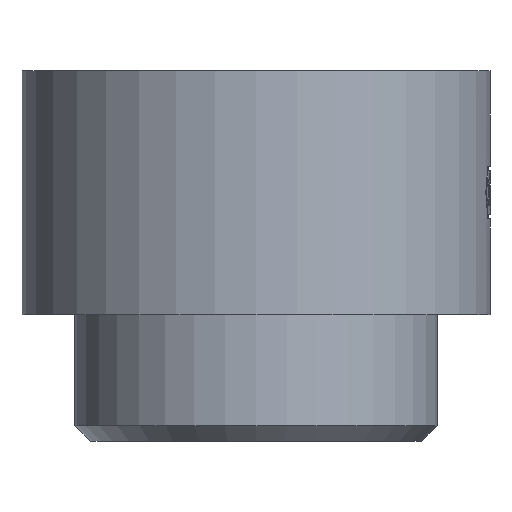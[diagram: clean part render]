
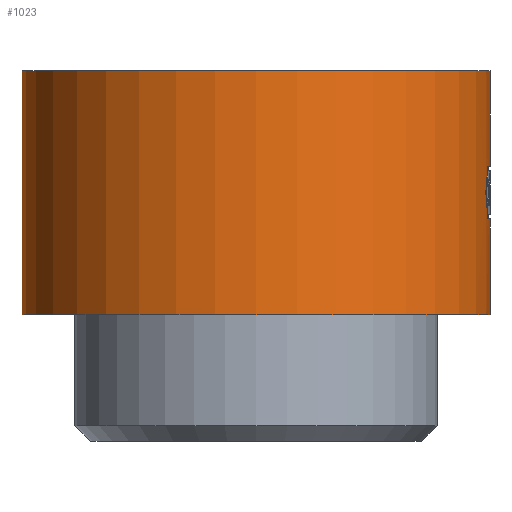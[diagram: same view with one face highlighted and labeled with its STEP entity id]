
A CAD part, front view. The second image highlights one B-rep face of the part: STEP entity #1023.
In plain terms, the highlighted cylindrical face has radius 12 mm (diameter 24 mm), a partial arc.
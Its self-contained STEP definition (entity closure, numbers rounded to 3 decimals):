
#22 = DIRECTION ( 'NONE',  ( 1., 0., 0. ) ) ;
#23 = DIRECTION ( 'NONE',  ( 0., 0., 1. ) ) ;
#24 = CARTESIAN_POINT ( 'NONE',  ( 0., 0., -7.6 ) ) ;
#25 = AXIS2_PLACEMENT_3D ( 'NONE', #24, #23, #22 ) ;
#26 = CIRCLE ( 'NONE', #25, 12. ) ;
#27 = CARTESIAN_POINT ( 'NONE',  ( 11.876, -1.721, -7.6 ) ) ;
#28 = DIRECTION ( 'NONE',  ( 1., 0., 0. ) ) ;
#29 = DIRECTION ( 'NONE',  ( 0., 0., 1. ) ) ;
#30 = CARTESIAN_POINT ( 'NONE',  ( 0., 0., -12.5 ) ) ;
#31 = AXIS2_PLACEMENT_3D ( 'NONE', #30, #29, #28 ) ;
#32 = CIRCLE ( 'NONE', #31, 12. ) ;
#33 = DIRECTION ( 'NONE',  ( 0., 1., 0. ) ) ;
#34 = DIRECTION ( 'NONE',  ( 0., 0., -1. ) ) ;
#35 = CARTESIAN_POINT ( 'NONE',  ( 0., 0., -4.9 ) ) ;
#36 = AXIS2_PLACEMENT_3D ( 'NONE', #35, #34, #33 ) ;
#37 = CARTESIAN_POINT ( 'NONE',  ( 11.781, -2.28, -6.25 ) ) ;
#38 = CARTESIAN_POINT ( 'NONE',  ( 11.817, -2.094, -5.802 ) ) ;
#39 = CARTESIAN_POINT ( 'NONE',  ( 11.849, -1.908, -5.352 ) ) ;
#40 = CARTESIAN_POINT ( 'NONE',  ( 11.876, -1.721, -4.9 ) ) ;
#41 = CIRCLE ( 'NONE', #36, 12. ) ;
#42 = B_SPLINE_CURVE_WITH_KNOTS ( 'NONE', 3,
 ( #40, #39, #38, #37 ),
 .UNSPECIFIED., .F., .F.,
 ( 4, 4 ),
 ( 0., 1. ),
 .UNSPECIFIED. ) ;
#137 = CARTESIAN_POINT ( 'NONE',  ( 11.876, -1.721, -4.9 ) ) ;
#190 = CARTESIAN_POINT ( 'NONE',  ( 11.876, -1.721, -7.6 ) ) ;
#191 = CARTESIAN_POINT ( 'NONE',  ( 11.849, -1.908, -7.148 ) ) ;
#192 = CARTESIAN_POINT ( 'NONE',  ( 11.817, -2.094, -6.698 ) ) ;
#193 = CARTESIAN_POINT ( 'NONE',  ( 11.781, -2.28, -6.25 ) ) ;
#194 = CARTESIAN_POINT ( 'NONE',  ( 11.781, -2.28, -6.25 ) ) ;
#195 = B_SPLINE_CURVE_WITH_KNOTS ( 'NONE', 3,
 ( #193, #192, #191, #190 ),
 .UNSPECIFIED., .F., .F.,
 ( 4, 4 ),
 ( 0., 1. ),
 .UNSPECIFIED. ) ;
#210 = DIRECTION ( 'NONE',  ( 1., 0., 0. ) ) ;
#211 = DIRECTION ( 'NONE',  ( 0., 0., 1. ) ) ;
#212 = CARTESIAN_POINT ( 'NONE',  ( 0., 0., 0. ) ) ;
#213 = AXIS2_PLACEMENT_3D ( 'NONE', #212, #211, #210 ) ;
#215 = CYLINDRICAL_SURFACE ( 'NONE', #213, 12. ) ;
#216 = FACE_OUTER_BOUND ( 'NONE', #1173, .T. ) ;
#411 = DIRECTION ( 'NONE',  ( 1., 0., 0. ) ) ;
#426 = DIRECTION ( 'NONE',  ( 0., 0., 1. ) ) ;
#427 = CARTESIAN_POINT ( 'NONE',  ( 0., 0., 0. ) ) ;
#428 = AXIS2_PLACEMENT_3D ( 'NONE', #427, #426, #411 ) ;
#429 = CIRCLE ( 'NONE', #428, 12. ) ;
#723 = VERTEX_POINT ( 'NONE', #1243 ) ;
#726 = EDGE_CURVE ( 'NONE', #811, #723, #1237, .T. ) ;
#807 = EDGE_CURVE ( 'NONE', #820, #822, #1561, .T. ) ;
#811 = VERTEX_POINT ( 'NONE', #1673 ) ;
#812 = VERTEX_POINT ( 'NONE', #1672 ) ;
#818 = EDGE_CURVE ( 'NONE', #812, #819, #1651, .T. ) ;
#819 = VERTEX_POINT ( 'NONE', #1647 ) ;
#820 = VERTEX_POINT ( 'NONE', #1646 ) ;
#822 = VERTEX_POINT ( 'NONE', #1640 ) ;
#983 = ORIENTED_EDGE ( 'NONE', *, *, #1004, .F. ) ;
#984 = VERTEX_POINT ( 'NONE', #137 ) ;
#986 = ORIENTED_EDGE ( 'NONE', *, *, #987, .F. ) ;
#987 = EDGE_CURVE ( 'NONE', #988, #1013, #195, .T. ) ;
#988 = VERTEX_POINT ( 'NONE', #194 ) ;
#1004 = EDGE_CURVE ( 'NONE', #984, #988, #42, .T. ) ;
#1005 = ORIENTED_EDGE ( 'NONE', *, *, #1006, .F. ) ;
#1006 = EDGE_CURVE ( 'NONE', #820, #984, #41, .T. ) ;
#1007 = ORIENTED_EDGE ( 'NONE', *, *, #807, .T. ) ;
#1008 = ORIENTED_EDGE ( 'NONE', *, *, #1009, .T. ) ;
#1009 = EDGE_CURVE ( 'NONE', #812, #811, #32, .T. ) ;
#1010 = ORIENTED_EDGE ( 'NONE', *, *, #726, .T. ) ;
#1011 = ORIENTED_EDGE ( 'NONE', *, *, #1012, .F. ) ;
#1012 = EDGE_CURVE ( 'NONE', #1013, #723, #26, .T. ) ;
#1013 = VERTEX_POINT ( 'NONE', #27 ) ;
#1023 = ADVANCED_FACE ( 'NONE', ( #216 ), #215, .T. ) ;
#1024 = ORIENTED_EDGE ( 'NONE', *, *, #818, .F. ) ;
#1143 = ORIENTED_EDGE ( 'NONE', *, *, #1144, .F. ) ;
#1144 = EDGE_CURVE ( 'NONE', #819, #822, #429, .T. ) ;
#1173 = EDGE_LOOP ( 'NONE', ( #1024, #1008, #1010, #1011, #986, #983, #1005, #1007, #1143 ) ) ;
#1234 = DIRECTION ( 'NONE',  ( 0., 0., 1. ) ) ;
#1235 = VECTOR ( 'NONE', #1234, 1000. ) ;
#1236 = CARTESIAN_POINT ( 'NONE',  ( 12., 0., 0. ) ) ;
#1237 = LINE ( 'NONE', #1236, #1235 ) ;
#1243 = CARTESIAN_POINT ( 'NONE',  ( 12., 0., -7.6 ) ) ;
#1560 = CARTESIAN_POINT ( 'NONE',  ( 12., 0., 0. ) ) ;
#1561 = LINE ( 'NONE', #1560, #1681 ) ;
#1640 = CARTESIAN_POINT ( 'NONE',  ( 12., 0., 0. ) ) ;
#1646 = CARTESIAN_POINT ( 'NONE',  ( 12., 0., -4.9 ) ) ;
#1647 = CARTESIAN_POINT ( 'NONE',  ( -12., 0., 0. ) ) ;
#1648 = DIRECTION ( 'NONE',  ( 0., 0., 1. ) ) ;
#1649 = VECTOR ( 'NONE', #1648, 1000. ) ;
#1650 = CARTESIAN_POINT ( 'NONE',  ( -12., 0., 0. ) ) ;
#1651 = LINE ( 'NONE', #1650, #1649 ) ;
#1672 = CARTESIAN_POINT ( 'NONE',  ( -12., 0., -12.5 ) ) ;
#1673 = CARTESIAN_POINT ( 'NONE',  ( 12., 0., -12.5 ) ) ;
#1680 = DIRECTION ( 'NONE',  ( 0., 0., 1. ) ) ;
#1681 = VECTOR ( 'NONE', #1680, 1000. ) ;
